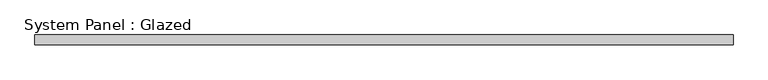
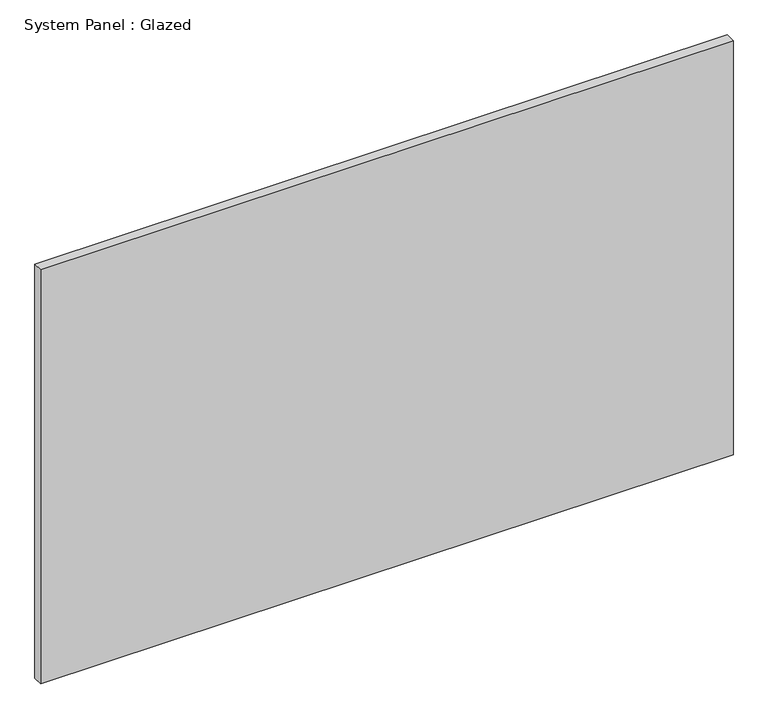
"""IFC4 building model written with IfcOpenShell, lengths in millimetres: plate geometry, System Panel : Glazed."""

from ifc_helpers import new_model, si_unit, origin, origin_with_axes, place, context, project, spatial, polyline, outline, extrude, source, transform, mapped, element, save


def system_panel_glazed_43ab654b(model_context):
    return source(origin(), model_context, "Body", "SweptSolid", [
        extrude(outline(polyline([(702.0, -40.0), (-702.0, -40.0), (-702.0, -20.0), (702.0, -20.0), (702.0, -40.0)])), origin_with_axes(), (0.0, 0.0, 1.0), 887.5),
    ])


if __name__ == "__main__":
    model = new_model("IFC4")
    model_context = context("Model", 3, world=origin())
    ifc_project = project(units=[si_unit("LENGTHUNIT", "METRE", prefix="MILLI")], contexts=[model_context])
    site = spatial("IfcSite", under=ifc_project)
    building = spatial("IfcBuilding", under=site)
    placement = place(None, origin())
    system_panel_glazed_shape = system_panel_glazed_43ab654b(model_context)
    element("IfcPlate", 1, ObjectType="System Panel : Glazed", at=placement, inside=building, context=model_context, shape_type="MappedRepresentation", body=[
        mapped(system_panel_glazed_shape, transform((0.0, 0.0, 0.0), x_axis=(1.0, 0.0, 0.0), y_axis=(0.0, 1.0, 0.0), z_axis=(0.0, 0.0, 1.0))),
    ])
    save(model, "model.ifc")
